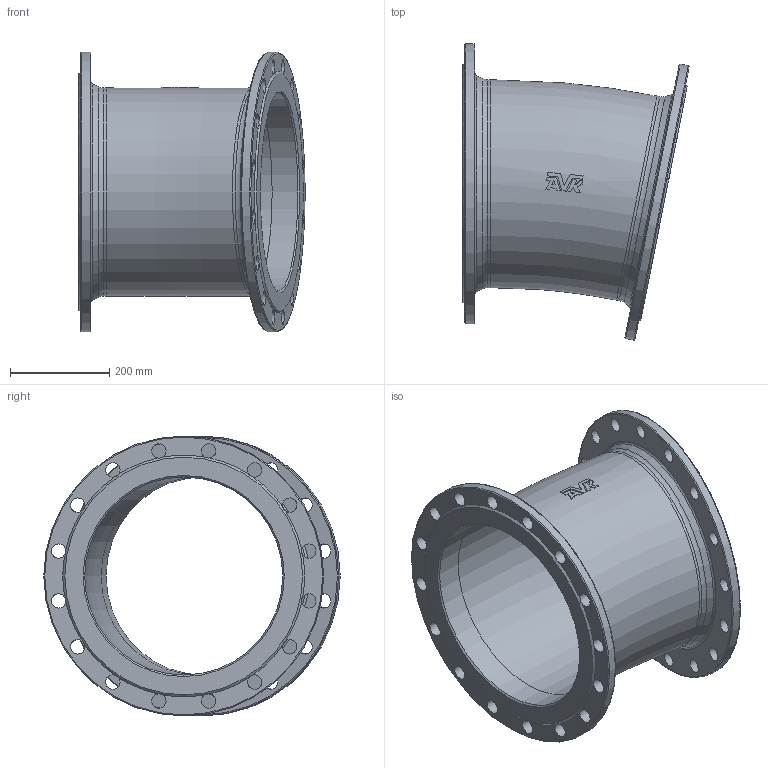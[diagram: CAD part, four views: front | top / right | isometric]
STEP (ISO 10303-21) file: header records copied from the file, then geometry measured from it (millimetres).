
FILE_DESCRIPTION (( 'STEP AP203' ), '1' );
FILE_NAME ('O_712_0110_DN400_0X_REV01.step', '2024-08-15T09:07:46', ( '' ), ( '' ), 'SwSTEP 2.0', 'SolidWorks 2022', '' );
FILE_SCHEMA (( 'CONFIG_CONTROL_DESIGN' ));
Length unit declared in the file: millimetre
Products named in the file (1): O_712_0110_DN400_0X_REV01
Bounding box: 456.88 x 598.42 x 565 mm (x, y, z)
Volume: 10052893.1 mm3; surface area: 1528143.4 mm2
Topology: 1 solids, 1 shells, 101 faces, 359 edges, 236 vertices
Faces by surface type: plane 41, cylinder 40, torus 14, cone 6
Full cylindrical faces by diameter (mm): 29 x32, 400 x2, 420 x2, 565 x2
Entity records: 3990 total; most frequent: CARTESIAN_POINT 1311, ORIENTED_EDGE 530, DIRECTION 485, EDGE_CURVE 265, AXIS2_PLACEMENT_3D 224, EDGE_LOOP 197, VERTEX_POINT 196, FACE_OUTER_BOUND 149
